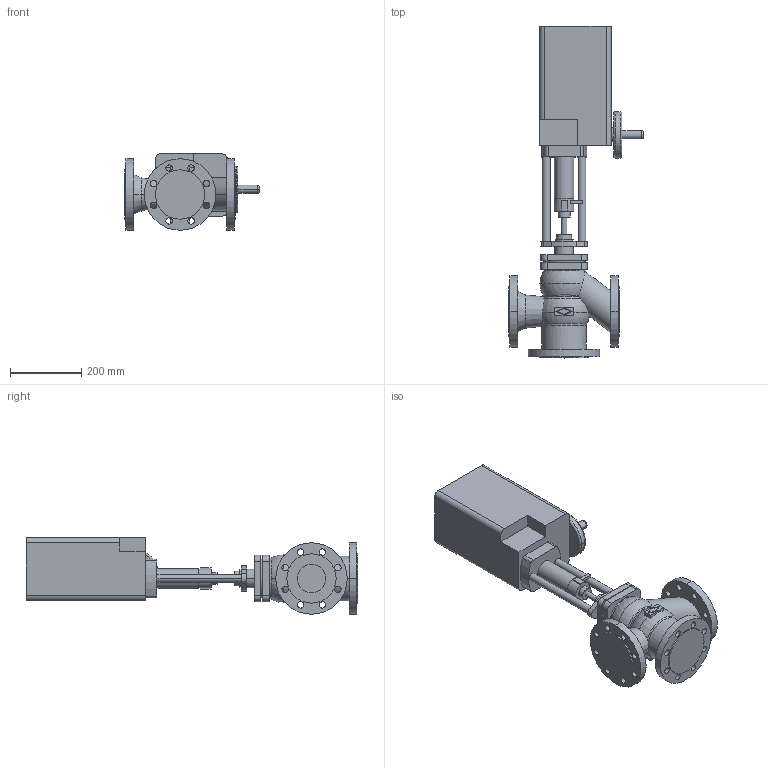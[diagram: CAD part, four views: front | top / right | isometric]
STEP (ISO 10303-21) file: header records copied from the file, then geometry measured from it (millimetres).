
FILE_DESCRIPTION(('OneSpaceDesigner STEP Export'),'2;1');
FILE_NAME('c000002412.stp','2006-09-19T12:08:02',(''),(''),'OneSpace Designer STEP processor for AP214 (Solid Model)','OneSpace Designer 13.20A 18-Aug-2005 (C) CoCreate Software GmbH','');
FILE_SCHEMA(('AUTOMOTIVE_DESIGN { 1 0 10303 214 1 1 1 1 }'));
Length unit declared in the file: millimetre
Products named in the file (2): 1; 2
Bounding box: 376.6 x 929 x 214 mm (x, y, z)
Volume: 19503767.4 mm3; surface area: 853639.2 mm2
Topology: 2 solids, 2 shells, 232 faces, 588 edges, 385 vertices
Faces by surface type: cylinder 118, plane 90, torus 16, sphere 4, cone 4
Entity records: 6539 total; most frequent: CARTESIAN_POINT 1308, ORIENTED_EDGE 1168, DIRECTION 955, EDGE_CURVE 584, VERTEX_POINT 385, AXIS2_PLACEMENT_3D 345, EDGE_LOOP 309, VECTOR 265
